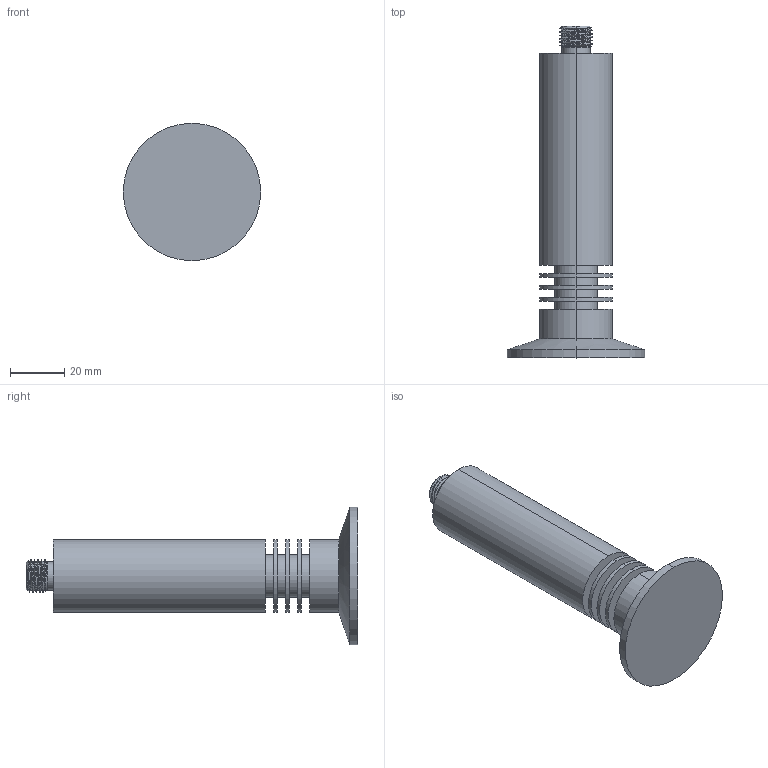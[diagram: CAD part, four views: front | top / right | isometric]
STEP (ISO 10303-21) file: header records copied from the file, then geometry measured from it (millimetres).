
FILE_DESCRIPTION (( 'STEP AP214' ), '1' );
FILE_NAME ('BPH1A.STEP', '2025-05-19T08:59:54', ( '' ), ( '' ), 'SwSTEP 2.0', 'SolidWorks 2022', '' );
FILE_SCHEMA (( 'AUTOMOTIVE_DESIGN' ));
Length unit declared in the file: millimetre
Products named in the file (1): BPH1A
Bounding box: 50.5 x 122 x 50.5 mm (x, y, z)
Volume: 66038.5 mm3; surface area: 16702.2 mm2
Topology: 1 solids, 1 shells, 56 faces, 126 edges, 82 vertices
Faces by surface type: cylinder 35, plane 12, cone 6, bspline 3
Entity records: 2849 total; most frequent: CARTESIAN_POINT 1613, ORIENTED_EDGE 252, DIRECTION 250, EDGE_CURVE 126, AXIS2_PLACEMENT_3D 105, VERTEX_POINT 82, EDGE_LOOP 66, FACE_OUTER_BOUND 56
